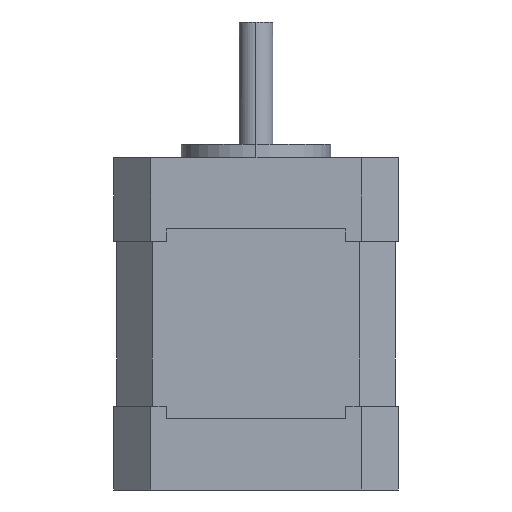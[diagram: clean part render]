
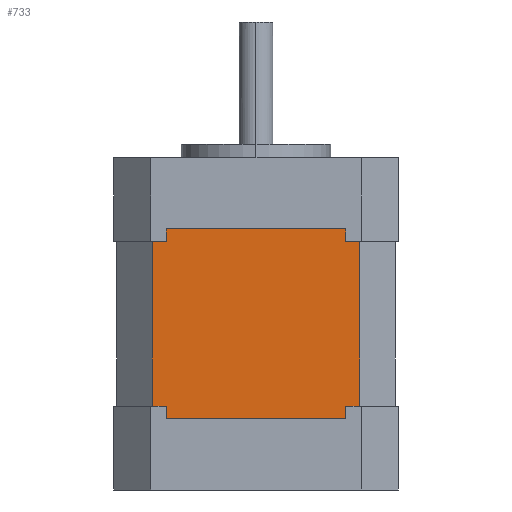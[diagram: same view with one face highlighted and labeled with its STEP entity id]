
A CAD part, left-side view. The second image highlights one B-rep face of the part: STEP entity #733.
In plain terms, the highlighted planar face has unit normal (-1, 0, 0).
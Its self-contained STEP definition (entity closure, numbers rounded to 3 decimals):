
#63 = DIRECTION ( 'NONE',  ( -1., 0., 0. ) ) ;
#102 = VERTEX_POINT ( 'NONE', #2525 ) ;
#135 = EDGE_CURVE ( 'NONE', #1221, #102, #425, .T. ) ;
#265 = ORIENTED_EDGE ( 'NONE', *, *, #135, .F. ) ;
#284 = DIRECTION ( 'NONE',  ( 0., 1., 0. ) ) ;
#394 = DIRECTION ( 'NONE',  ( 0., 0., -1. ) ) ;
#413 = CARTESIAN_POINT ( 'NONE',  ( -20.5, 13.25, -10.5 ) ) ;
#425 = LINE ( 'NONE', #2535, #2734 ) ;
#462 = VECTOR ( 'NONE', #690, 1000. ) ;
#487 = CARTESIAN_POINT ( 'NONE',  ( -20.5, -13.25, -38.5 ) ) ;
#490 = LINE ( 'NONE', #2072, #1154 ) ;
#514 = VERTEX_POINT ( 'NONE', #1980 ) ;
#528 = VECTOR ( 'NONE', #1453, 1000. ) ;
#540 = FACE_OUTER_BOUND ( 'NONE', #755, .T. ) ;
#590 = LINE ( 'NONE', #2562, #528 ) ;
#614 = ORIENTED_EDGE ( 'NONE', *, *, #2159, .T. ) ;
#617 = ORIENTED_EDGE ( 'NONE', *, *, #2614, .F. ) ;
#619 = ORIENTED_EDGE ( 'NONE', *, *, #1306, .F. ) ;
#628 = LINE ( 'NONE', #933, #1831 ) ;
#690 = DIRECTION ( 'NONE',  ( 0., 0., 1. ) ) ;
#721 = CARTESIAN_POINT ( 'NONE',  ( -20.5, -15.293, -36.65 ) ) ;
#727 = DIRECTION ( 'NONE',  ( 0., 0., -1. ) ) ;
#733 = ADVANCED_FACE ( 'NONE', ( #540 ), #1612, .T. ) ;
#745 = EDGE_CURVE ( 'NONE', #102, #2602, #2634, .T. ) ;
#755 = EDGE_LOOP ( 'NONE', ( #614, #1095, #619, #1921, #2339, #883, #2684, #265, #2536, #617, #939, #1816 ) ) ;
#813 = DIRECTION ( 'NONE',  ( 0., 1., 0. ) ) ;
#827 = CARTESIAN_POINT ( 'NONE',  ( -20.5, 13.25, -38.5 ) ) ;
#883 = ORIENTED_EDGE ( 'NONE', *, *, #1795, .T. ) ;
#895 = VECTOR ( 'NONE', #813, 1000. ) ;
#933 = CARTESIAN_POINT ( 'NONE',  ( -20.5, 13.25, -38.5 ) ) ;
#939 = ORIENTED_EDGE ( 'NONE', *, *, #1871, .F. ) ;
#945 = EDGE_CURVE ( 'NONE', #1781, #1744, #2180, .T. ) ;
#964 = EDGE_CURVE ( 'NONE', #2578, #1221, #1585, .T. ) ;
#970 = LINE ( 'NONE', #2686, #1444 ) ;
#1044 = VECTOR ( 'NONE', #2646, 1000. ) ;
#1048 = VECTOR ( 'NONE', #1818, 1000. ) ;
#1078 = EDGE_CURVE ( 'NONE', #2152, #1326, #628, .T. ) ;
#1095 = ORIENTED_EDGE ( 'NONE', *, *, #2418, .F. ) ;
#1106 = LINE ( 'NONE', #1405, #2239 ) ;
#1146 = CARTESIAN_POINT ( 'NONE',  ( -20.5, 13.25, -38.5 ) ) ;
#1154 = VECTOR ( 'NONE', #727, 1000. ) ;
#1218 = CARTESIAN_POINT ( 'NONE',  ( -20.5, -15.293, -12.35 ) ) ;
#1221 = VERTEX_POINT ( 'NONE', #827 ) ;
#1306 = EDGE_CURVE ( 'NONE', #1326, #2450, #2763, .T. ) ;
#1326 = VERTEX_POINT ( 'NONE', #1879 ) ;
#1397 = CARTESIAN_POINT ( 'NONE',  ( -20.5, -15.293, -12.35 ) ) ;
#1405 = CARTESIAN_POINT ( 'NONE',  ( -20.5, -15.293, -12.35 ) ) ;
#1407 = DIRECTION ( 'NONE',  ( 0., 0., 1. ) ) ;
#1428 = DIRECTION ( 'NONE',  ( 0., 0., 1. ) ) ;
#1444 = VECTOR ( 'NONE', #2248, 1000. ) ;
#1453 = DIRECTION ( 'NONE',  ( 0., 0., -1. ) ) ;
#1499 = LINE ( 'NONE', #1509, #1962 ) ;
#1509 = CARTESIAN_POINT ( 'NONE',  ( -20.5, -13.25, -38.5 ) ) ;
#1575 = LINE ( 'NONE', #2169, #895 ) ;
#1585 = LINE ( 'NONE', #1146, #1048 ) ;
#1612 = PLANE ( 'NONE',  #1810 ) ;
#1623 = DIRECTION ( 'NONE',  ( 0., -1., 0. ) ) ;
#1677 = VERTEX_POINT ( 'NONE', #2745 ) ;
#1744 = VERTEX_POINT ( 'NONE', #1218 ) ;
#1781 = VERTEX_POINT ( 'NONE', #2113 ) ;
#1795 = EDGE_CURVE ( 'NONE', #2439, #2602, #590, .T. ) ;
#1810 = AXIS2_PLACEMENT_3D ( 'NONE', #1397, #63, #1623 ) ;
#1816 = ORIENTED_EDGE ( 'NONE', *, *, #945, .T. ) ;
#1818 = DIRECTION ( 'NONE',  ( 0., 1., 0. ) ) ;
#1831 = VECTOR ( 'NONE', #1407, 1000. ) ;
#1871 = EDGE_CURVE ( 'NONE', #1781, #1677, #970, .T. ) ;
#1879 = CARTESIAN_POINT ( 'NONE',  ( -20.5, 13.25, -10.5 ) ) ;
#1921 = ORIENTED_EDGE ( 'NONE', *, *, #1078, .F. ) ;
#1962 = VECTOR ( 'NONE', #394, 1000. ) ;
#1980 = CARTESIAN_POINT ( 'NONE',  ( -20.5, -13.25, -12.35 ) ) ;
#2035 = CARTESIAN_POINT ( 'NONE',  ( -20.5, -15.293, -12.35 ) ) ;
#2043 = VECTOR ( 'NONE', #2731, 1000. ) ;
#2059 = CARTESIAN_POINT ( 'NONE',  ( -20.5, 15.293, -36.65 ) ) ;
#2072 = CARTESIAN_POINT ( 'NONE',  ( -20.5, -13.25, -38.5 ) ) ;
#2113 = CARTESIAN_POINT ( 'NONE',  ( -20.5, -15.293, -36.65 ) ) ;
#2152 = VERTEX_POINT ( 'NONE', #2727 ) ;
#2159 = EDGE_CURVE ( 'NONE', #1744, #514, #1106, .T. ) ;
#2169 = CARTESIAN_POINT ( 'NONE',  ( -20.5, -15.293, -12.35 ) ) ;
#2180 = LINE ( 'NONE', #2035, #462 ) ;
#2239 = VECTOR ( 'NONE', #284, 1000. ) ;
#2248 = DIRECTION ( 'NONE',  ( 0., 1., 0. ) ) ;
#2339 = ORIENTED_EDGE ( 'NONE', *, *, #2372, .T. ) ;
#2372 = EDGE_CURVE ( 'NONE', #2152, #2439, #1575, .T. ) ;
#2418 = EDGE_CURVE ( 'NONE', #2450, #514, #1499, .T. ) ;
#2419 = CARTESIAN_POINT ( 'NONE',  ( -20.5, 15.293, -12.35 ) ) ;
#2439 = VERTEX_POINT ( 'NONE', #2419 ) ;
#2450 = VERTEX_POINT ( 'NONE', #2631 ) ;
#2525 = CARTESIAN_POINT ( 'NONE',  ( -20.5, 13.25, -36.65 ) ) ;
#2535 = CARTESIAN_POINT ( 'NONE',  ( -20.5, 13.25, -38.5 ) ) ;
#2536 = ORIENTED_EDGE ( 'NONE', *, *, #964, .F. ) ;
#2562 = CARTESIAN_POINT ( 'NONE',  ( -20.5, 15.293, -12.35 ) ) ;
#2578 = VERTEX_POINT ( 'NONE', #487 ) ;
#2602 = VERTEX_POINT ( 'NONE', #2059 ) ;
#2614 = EDGE_CURVE ( 'NONE', #1677, #2578, #490, .T. ) ;
#2631 = CARTESIAN_POINT ( 'NONE',  ( -20.5, -13.25, -10.5 ) ) ;
#2634 = LINE ( 'NONE', #721, #2043 ) ;
#2646 = DIRECTION ( 'NONE',  ( 0., -1., 0. ) ) ;
#2684 = ORIENTED_EDGE ( 'NONE', *, *, #745, .F. ) ;
#2686 = CARTESIAN_POINT ( 'NONE',  ( -20.5, -15.293, -36.65 ) ) ;
#2727 = CARTESIAN_POINT ( 'NONE',  ( -20.5, 13.25, -12.35 ) ) ;
#2731 = DIRECTION ( 'NONE',  ( 0., 1., 0. ) ) ;
#2734 = VECTOR ( 'NONE', #1428, 1000. ) ;
#2745 = CARTESIAN_POINT ( 'NONE',  ( -20.5, -13.25, -36.65 ) ) ;
#2763 = LINE ( 'NONE', #413, #1044 ) ;
